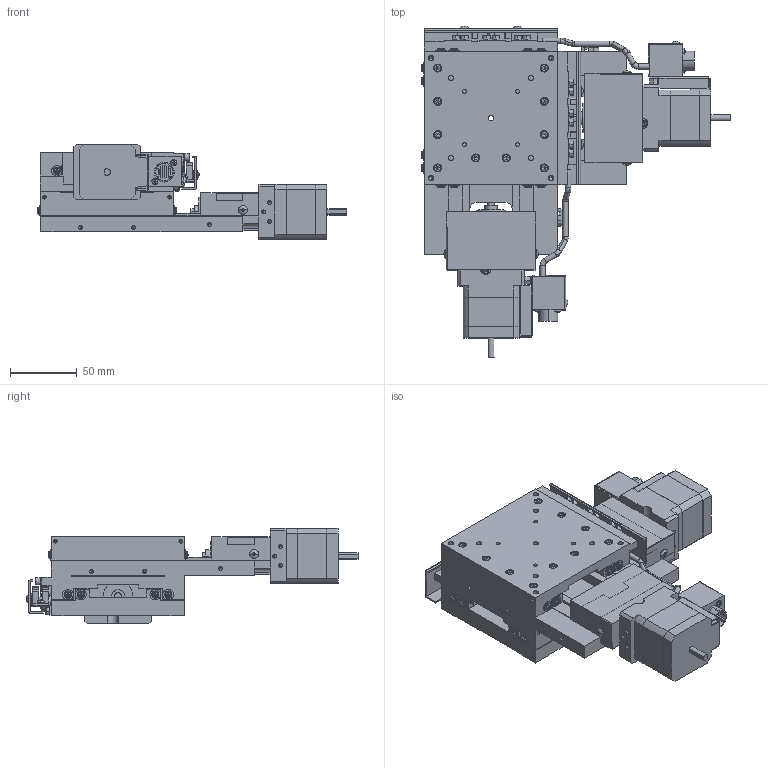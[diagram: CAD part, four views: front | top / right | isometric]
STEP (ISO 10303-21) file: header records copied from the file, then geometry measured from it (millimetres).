
FILE_DESCRIPTION (( 'STEP AP203' ), '1' );
FILE_NAME ('YA10F-R102.STEP', '2019-03-08T08:28:13', ( '' ), ( '' ), 'SwSTEP 2.0', 'SolidWorks 2018', '' );
FILE_SCHEMA (( 'CONFIG_CONTROL_DESIGN' ));
Length unit declared in the file: millimetre
Products named in the file (4): base; YA10F-R102; table; second table
Assembly tree (3 placements, depth 2):
  YA10F-R102
    base
    table
    second table
Bounding box: 232.48 x 249.09 x 72 mm (x, y, z)
Volume: 880677.3 mm3; surface area: 256838.7 mm2
Topology: 3 solids, 9 shells, 4203 faces, 10431 edges, 6386 vertices
Faces by surface type: plane 2533, cylinder 978, cone 552, sphere 72, torus 68
Entity records: 124815 total; most frequent: CARTESIAN_POINT 22477, DIRECTION 22243, ORIENTED_EDGE 20526, EDGE_CURVE 10263, AXIS2_PLACEMENT_3D 7920, LINE 6403, VECTOR 6403, VERTEX_POINT 6386
